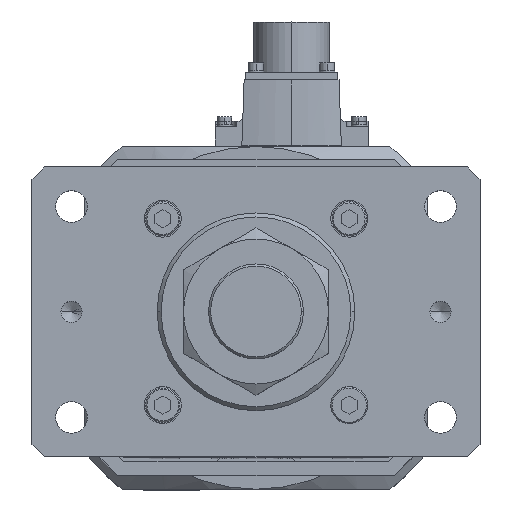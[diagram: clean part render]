
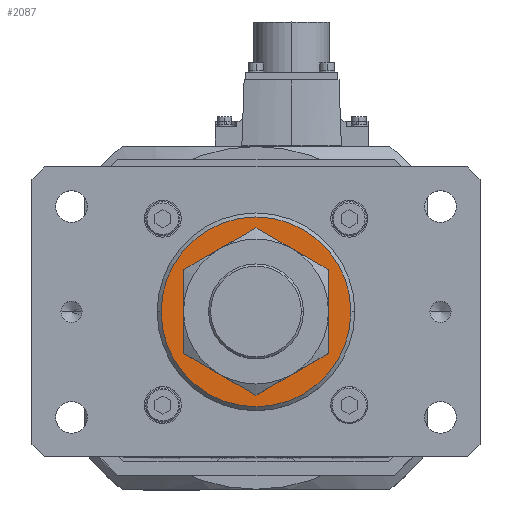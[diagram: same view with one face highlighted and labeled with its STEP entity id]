
A CAD part, top view. The second image highlights one B-rep face of the part: STEP entity #2087.
In plain terms, the highlighted planar face has unit normal (0, 0, 1).
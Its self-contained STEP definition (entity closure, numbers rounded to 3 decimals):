
#306 = CARTESIAN_POINT ( 'NONE',  ( 0., 0., 1046. ) ) ;
#743 = AXIS2_PLACEMENT_3D ( 'NONE', #33327, #36463, #10309 ) ;
#1371 = CIRCLE ( 'NONE', #28572, 36. ) ;
#1398 = AXIS2_PLACEMENT_3D ( 'NONE', #306, #11407, #14374 ) ;
#1950 = CARTESIAN_POINT ( 'NONE',  ( 0., 0., 1046. ) ) ;
#1994 = VERTEX_POINT ( 'NONE', #29404 ) ;
#2051 = VERTEX_POINT ( 'NONE', #34083 ) ;
#2087 = ADVANCED_FACE ( 'NONE', ( #4576, #17069 ), #10973, .T. ) ;
#2896 = CARTESIAN_POINT ( 'NONE',  ( 36., 0., 1046. ) ) ;
#3550 = DIRECTION ( 'NONE',  ( 0., 0., 1. ) ) ;
#4576 = FACE_BOUND ( 'NONE', #17658, .T. ) ;
#5216 = VERTEX_POINT ( 'NONE', #2896 ) ;
#6668 = AXIS2_PLACEMENT_3D ( 'NONE', #22671, #14689, #34492 ) ;
#7477 = ORIENTED_EDGE ( 'NONE', *, *, #36257, .T. ) ;
#8180 = CIRCLE ( 'NONE', #25805, 23. ) ;
#9769 = EDGE_CURVE ( 'NONE', #5216, #1994, #1371, .T. ) ;
#10309 = DIRECTION ( 'NONE',  ( 1., 0., 0. ) ) ;
#10973 = PLANE ( 'NONE',  #6668 ) ;
#11407 = DIRECTION ( 'NONE',  ( 0., 0., -1. ) ) ;
#12025 = DIRECTION ( 'NONE',  ( 1., 0., 0. ) ) ;
#13937 = CIRCLE ( 'NONE', #1398, 23. ) ;
#14374 = DIRECTION ( 'NONE',  ( 1., 0., 0. ) ) ;
#14568 = VERTEX_POINT ( 'NONE', #19301 ) ;
#14689 = DIRECTION ( 'NONE',  ( 0., 0., 1. ) ) ;
#17069 = FACE_OUTER_BOUND ( 'NONE', #33911, .T. ) ;
#17629 = CARTESIAN_POINT ( 'NONE',  ( 0., 0., 1046. ) ) ;
#17658 = EDGE_LOOP ( 'NONE', ( #7477, #30296 ) ) ;
#18655 = ORIENTED_EDGE ( 'NONE', *, *, #9769, .T. ) ;
#19301 = CARTESIAN_POINT ( 'NONE',  ( 23., 0., 1046. ) ) ;
#21885 = DIRECTION ( 'NONE',  ( 0., 0., -1. ) ) ;
#22671 = CARTESIAN_POINT ( 'NONE',  ( 0., 0., 1046. ) ) ;
#24983 = EDGE_CURVE ( 'NONE', #2051, #14568, #13937, .T. ) ;
#25165 = CIRCLE ( 'NONE', #743, 36. ) ;
#25805 = AXIS2_PLACEMENT_3D ( 'NONE', #1950, #21885, #27690 ) ;
#27690 = DIRECTION ( 'NONE',  ( 1., 0., 0. ) ) ;
#28572 = AXIS2_PLACEMENT_3D ( 'NONE', #17629, #3550, #12025 ) ;
#29065 = ORIENTED_EDGE ( 'NONE', *, *, #36154, .T. ) ;
#29404 = CARTESIAN_POINT ( 'NONE',  ( -36., 0., 1046. ) ) ;
#30296 = ORIENTED_EDGE ( 'NONE', *, *, #24983, .T. ) ;
#33327 = CARTESIAN_POINT ( 'NONE',  ( 0., 0., 1046. ) ) ;
#33911 = EDGE_LOOP ( 'NONE', ( #29065, #18655 ) ) ;
#34083 = CARTESIAN_POINT ( 'NONE',  ( -23., 0., 1046. ) ) ;
#34492 = DIRECTION ( 'NONE',  ( 1., 0., 0. ) ) ;
#36154 = EDGE_CURVE ( 'NONE', #1994, #5216, #25165, .T. ) ;
#36257 = EDGE_CURVE ( 'NONE', #14568, #2051, #8180, .T. ) ;
#36463 = DIRECTION ( 'NONE',  ( 0., 0., 1. ) ) ;
